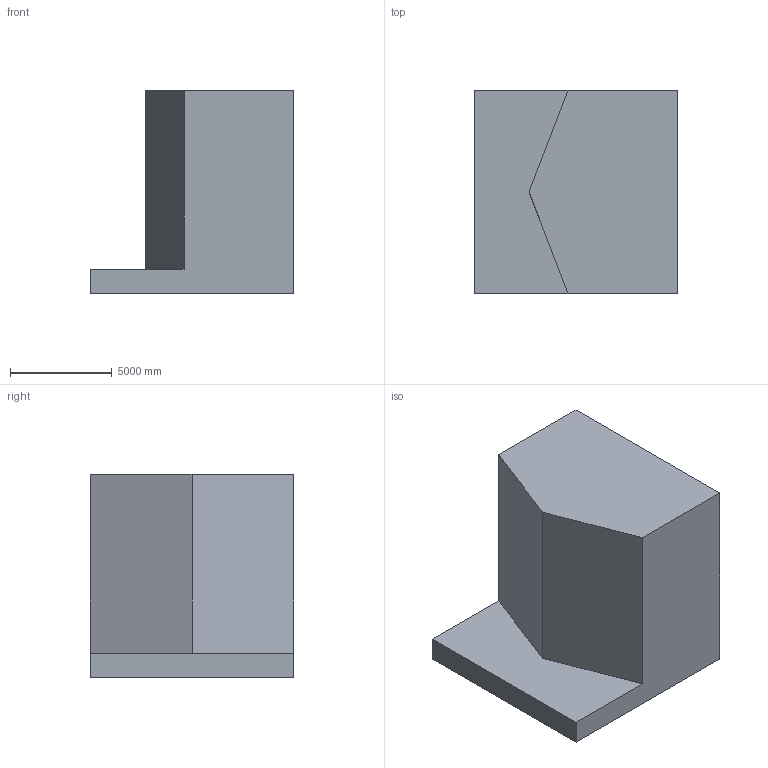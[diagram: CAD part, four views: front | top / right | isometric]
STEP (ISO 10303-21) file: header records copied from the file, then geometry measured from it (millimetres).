
FILE_DESCRIPTION (( 'STEP AP203' ), '1' );
FILE_NAME ('6.STEP', '2022-08-31T11:08:15', ( 'user' ), ( '' ), 'SwSTEP 2.0', 'SolidWorks 2021', '' );
FILE_SCHEMA (( 'CONFIG_CONTROL_DESIGN' ));
Length unit declared in the file: centimetre
Products named in the file (1): 6
Bounding box: 10000 x 10000 x 10000 mm (x, y, z)
Volume: 629966038386.3 mm3; surface area: 586110232.4 mm2
Topology: 1 solids, 1 shells, 16 faces, 39 edges, 26 vertices
Faces by surface type: plane 16
Entity records: 540 total; most frequent: CARTESIAN_POINT 82, ORIENTED_EDGE 78, DIRECTION 73, LINE 39, VECTOR 39, EDGE_CURVE 39, VERTEX_POINT 26, AXIS2_PLACEMENT_3D 17
